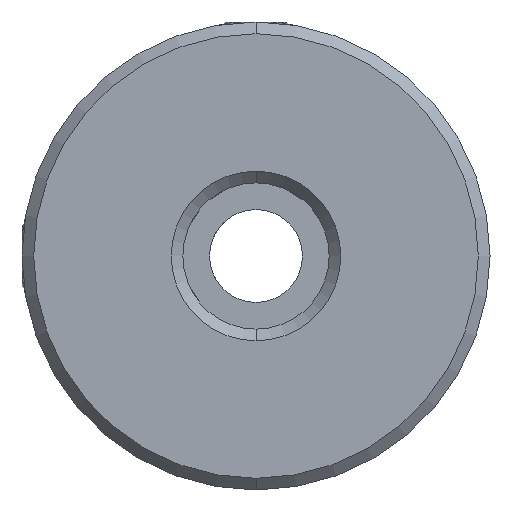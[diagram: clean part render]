
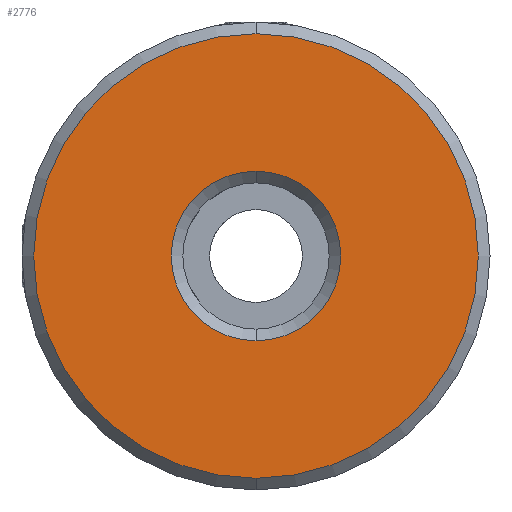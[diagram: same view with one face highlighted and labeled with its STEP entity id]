
A CAD part, front view. The second image highlights one B-rep face of the part: STEP entity #2776.
In plain terms, the highlighted planar face has unit normal (0, -1, 0).
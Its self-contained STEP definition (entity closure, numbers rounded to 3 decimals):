
#152 = DIRECTION ( 'NONE',  ( 0., -1., 0. ) ) ;
#172 = AXIS2_PLACEMENT_3D ( 'NONE', #3091, #1629, #3400 ) ;
#335 = CIRCLE ( 'NONE', #648, 15.2 ) ;
#425 = DIRECTION ( 'NONE',  ( 0., 1., 0. ) ) ;
#467 = PLANE ( 'NONE',  #172 ) ;
#617 = EDGE_CURVE ( 'NONE', #1687, #3617, #725, .T. ) ;
#648 = AXIS2_PLACEMENT_3D ( 'NONE', #3105, #1112, #3653 ) ;
#706 = ORIENTED_EDGE ( 'NONE', *, *, #3126, .T. ) ;
#725 = CIRCLE ( 'NONE', #2355, 5.8 ) ;
#808 = CARTESIAN_POINT ( 'NONE',  ( -10.188, -0.277, 15.246 ) ) ;
#855 = ORIENTED_EDGE ( 'NONE', *, *, #2026, .T. ) ;
#1020 = DIRECTION ( 'NONE',  ( 0., 0., 1. ) ) ;
#1038 = EDGE_LOOP ( 'NONE', ( #706, #1769 ) ) ;
#1079 = CARTESIAN_POINT ( 'NONE',  ( -10.188, -0.277, 0.046 ) ) ;
#1112 = DIRECTION ( 'NONE',  ( 0., -1., 0. ) ) ;
#1284 = CARTESIAN_POINT ( 'NONE',  ( -10.188, -0.277, 0.046 ) ) ;
#1343 = AXIS2_PLACEMENT_3D ( 'NONE', #3684, #3124, #2800 ) ;
#1437 = CARTESIAN_POINT ( 'NONE',  ( -10.188, -0.277, -5.754 ) ) ;
#1629 = DIRECTION ( 'NONE',  ( 0., 1., 0. ) ) ;
#1687 = VERTEX_POINT ( 'NONE', #1437 ) ;
#1769 = ORIENTED_EDGE ( 'NONE', *, *, #3151, .T. ) ;
#2026 = EDGE_CURVE ( 'NONE', #3617, #1687, #2443, .T. ) ;
#2042 = CARTESIAN_POINT ( 'NONE',  ( -10.188, -0.277, -15.154 ) ) ;
#2355 = AXIS2_PLACEMENT_3D ( 'NONE', #1284, #425, #1020 ) ;
#2406 = VERTEX_POINT ( 'NONE', #2042 ) ;
#2443 = CIRCLE ( 'NONE', #1343, 5.8 ) ;
#2483 = DIRECTION ( 'NONE',  ( 0., 0., 1. ) ) ;
#2524 = FACE_BOUND ( 'NONE', #3140, .T. ) ;
#2557 = FACE_OUTER_BOUND ( 'NONE', #1038, .T. ) ;
#2581 = CARTESIAN_POINT ( 'NONE',  ( -10.188, -0.277, 5.846 ) ) ;
#2766 = CIRCLE ( 'NONE', #3108, 15.2 ) ;
#2776 = ADVANCED_FACE ( 'NONE', ( #2557, #2524 ), #467, .F. ) ;
#2800 = DIRECTION ( 'NONE',  ( 0., 0., 1. ) ) ;
#2846 = ORIENTED_EDGE ( 'NONE', *, *, #617, .T. ) ;
#3091 = CARTESIAN_POINT ( 'NONE',  ( -10.188, -0.277, 0.046 ) ) ;
#3105 = CARTESIAN_POINT ( 'NONE',  ( -10.188, -0.277, 0.046 ) ) ;
#3108 = AXIS2_PLACEMENT_3D ( 'NONE', #1079, #152, #2483 ) ;
#3124 = DIRECTION ( 'NONE',  ( 0., 1., 0. ) ) ;
#3126 = EDGE_CURVE ( 'NONE', #3502, #2406, #2766, .T. ) ;
#3140 = EDGE_LOOP ( 'NONE', ( #2846, #855 ) ) ;
#3151 = EDGE_CURVE ( 'NONE', #2406, #3502, #335, .T. ) ;
#3400 = DIRECTION ( 'NONE',  ( 0., 0., 1. ) ) ;
#3502 = VERTEX_POINT ( 'NONE', #808 ) ;
#3617 = VERTEX_POINT ( 'NONE', #2581 ) ;
#3653 = DIRECTION ( 'NONE',  ( 0., 0., 1. ) ) ;
#3684 = CARTESIAN_POINT ( 'NONE',  ( -10.188, -0.277, 0.046 ) ) ;
